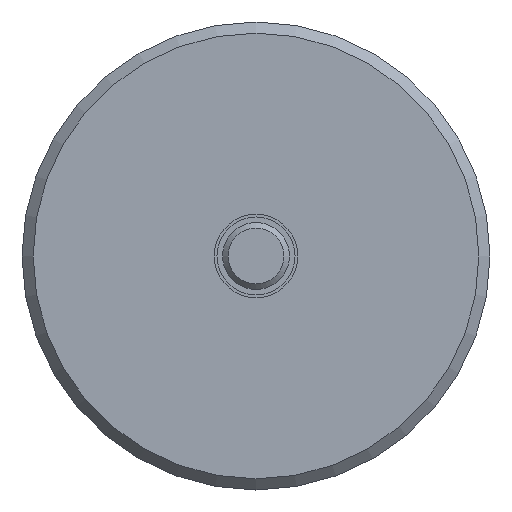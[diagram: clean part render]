
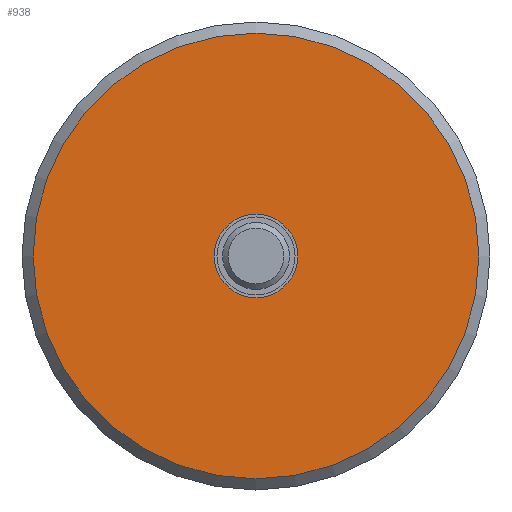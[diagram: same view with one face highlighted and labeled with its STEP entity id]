
A CAD part, left-side view. The second image highlights one B-rep face of the part: STEP entity #938.
In plain terms, the highlighted planar face has unit normal (-1, 0, 0).
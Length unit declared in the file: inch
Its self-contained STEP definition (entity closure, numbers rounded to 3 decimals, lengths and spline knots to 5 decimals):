
#39=FACE_BOUND('',#168,.T.);
#60=PLANE('',#1085);
#103=FACE_OUTER_BOUND('',#167,.T.);
#167=EDGE_LOOP('',(#748));
#168=EDGE_LOOP('',(#749,#750));
#311=CIRCLE('',#1075,0.14764);
#312=CIRCLE('',#1076,0.14764);
#315=CIRCLE('',#1081,0.7874);
#409=VERTEX_POINT('',#1641);
#410=VERTEX_POINT('',#1642);
#413=VERTEX_POINT('',#1653);
#523=EDGE_CURVE('',#409,#410,#311,.T.);
#524=EDGE_CURVE('',#410,#409,#312,.T.);
#530=EDGE_CURVE('',#413,#413,#315,.T.);
#748=ORIENTED_EDGE('',*,*,#530,.F.);
#749=ORIENTED_EDGE('',*,*,#523,.T.);
#750=ORIENTED_EDGE('',*,*,#524,.T.);
#938=ADVANCED_FACE('',(#103,#39),#60,.F.);
#1075=AXIS2_PLACEMENT_3D('',#1643,#1343,#1344);
#1076=AXIS2_PLACEMENT_3D('',#1644,#1345,#1346);
#1081=AXIS2_PLACEMENT_3D('',#1655,#1358,#1359);
#1085=AXIS2_PLACEMENT_3D('',#1662,#1367,#1368);
#1343=DIRECTION('center_axis',(1.,0.,0.));
#1344=DIRECTION('ref_axis',(0.,-1.,0.));
#1345=DIRECTION('center_axis',(1.,0.,0.));
#1346=DIRECTION('ref_axis',(0.,-1.,0.));
#1358=DIRECTION('center_axis',(1.,0.,0.));
#1359=DIRECTION('ref_axis',(0.,-1.,0.));
#1367=DIRECTION('center_axis',(1.,0.,0.));
#1368=DIRECTION('ref_axis',(0.,0.,1.));
#1641=CARTESIAN_POINT('',(-2.33762,-0.04634,0.80475));
#1642=CARTESIAN_POINT('',(-2.33762,0.24894,0.80475));
#1643=CARTESIAN_POINT('Origin',(-2.33762,0.1013,0.80475));
#1644=CARTESIAN_POINT('Origin',(-2.33762,0.1013,0.80475));
#1653=CARTESIAN_POINT('',(-2.33762,0.8887,0.80475));
#1655=CARTESIAN_POINT('Origin',(-2.33762,0.1013,0.80475));
#1662=CARTESIAN_POINT('Origin',(-2.33762,0.1013,0.80475));
